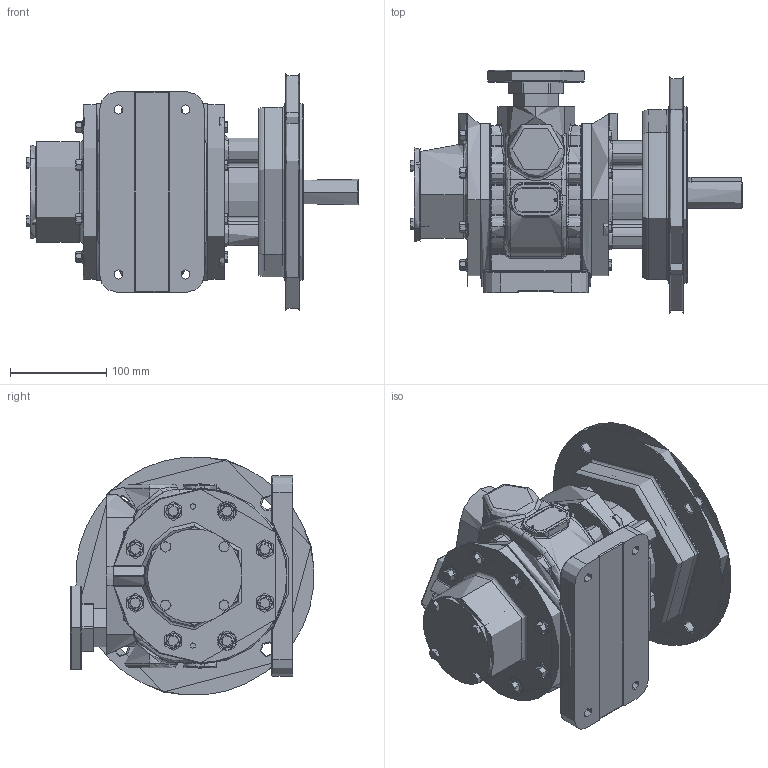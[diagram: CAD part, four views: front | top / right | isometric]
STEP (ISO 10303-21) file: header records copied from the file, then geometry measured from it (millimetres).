
FILE_DESCRIPTION (( 'STEP AP214' ), '1' );
FILE_NAME ('16VMD (IEC)_Solid 29-07-25.STEP', '2025-07-29T08:18:49', ( '' ), ( '' ), 'SwSTEP 2.0', 'SolidWorks 2017', '' );
FILE_SCHEMA (( 'AUTOMOTIVE_DESIGN' ));
Length unit declared in the file: millimetre
Products named in the file (2): 16VMD (IEC)_Solid 29-07-25
Bounding box: 345.26 x 252.95 x 247.11 mm (x, y, z)
Topology: 73 solids, 85 shells, 2787 faces, 6440 edges, 3827 vertices
Faces by surface type: cylinder 864, plane 786, cone 561, torus 308, bspline 222, sphere 46
Entity records: 434729 total; most frequent: CARTESIAN_POINT 209001, ORIENTED_EDGE 34348, DIRECTION 25648, EDGE_CURVE 17174, VERTEX_POINT 10966, EDGE_LOOP 9826, AXIS2_PLACEMENT_3D 9814, B_SPLINE_CURVE_WITH_KNOTS 7548
